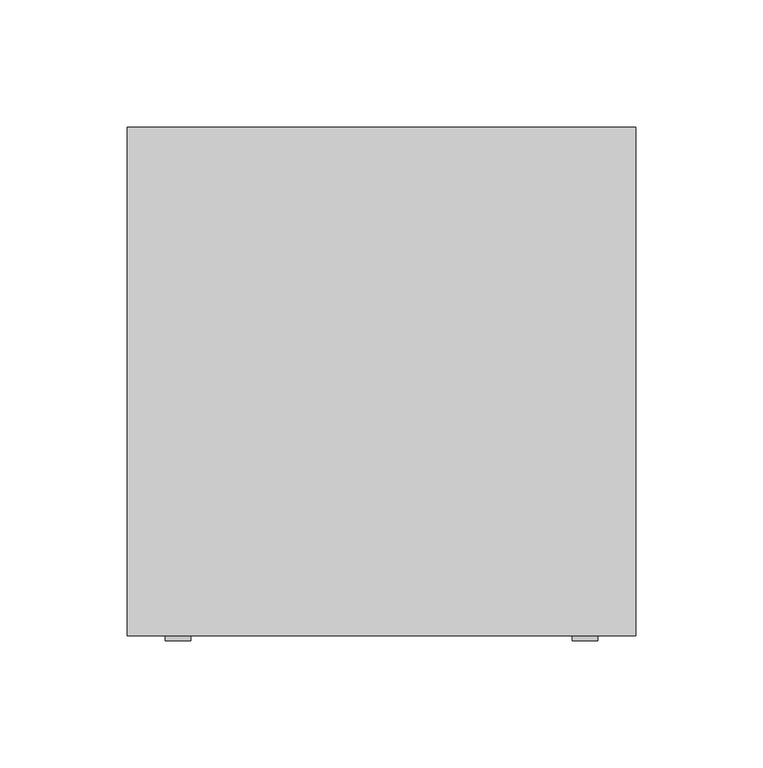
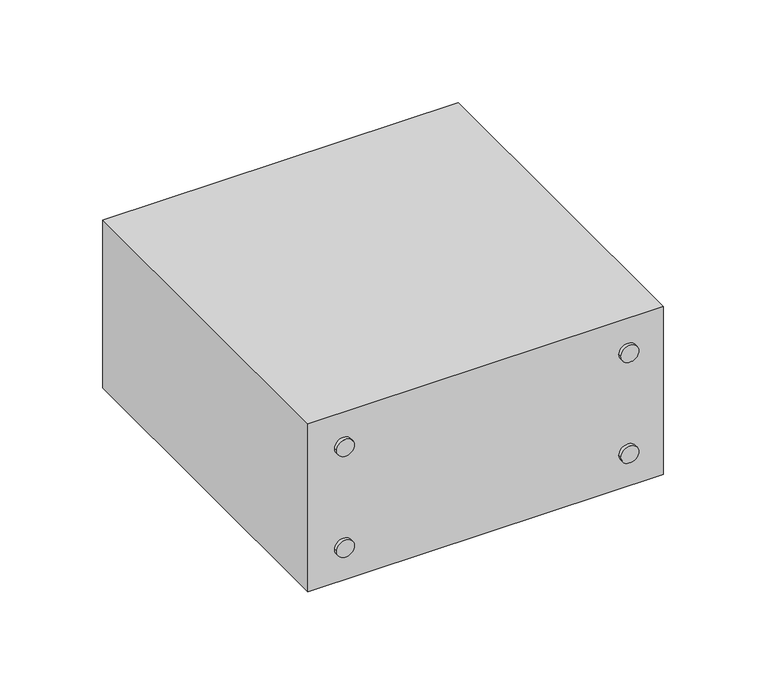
"""IFC4 building model written with IfcOpenShell, lengths in millimetres: proxy geometry, 20206_プルボックス_強電用 : 2動力設備."""

from ifc_helpers import new_model, si_unit, point, frame, frame_2d, origin, place, context, project, spatial, polyline, circle_curve, trimmed, segment, composite_curve, outline, extrude, source, transform, mapped, element, save


def electrical_fixtures_2e1bd67b(model_context):
    return source(origin(), model_context, "Body", "SweptSolid", [
        extrude(outline(composite_curve([segment(trimmed(circle_curve(frame_2d((-30.0, -80.0)), 5.0), [point((-30.0, -85.0))], [point((-30.0, -75.0))], False, "CARTESIAN"), True, "CONTINUOUS"), segment(trimmed(circle_curve(frame_2d((-30.0, -80.0)), 5.0), [point((-30.0, -75.0))], [point((-30.0, -85.0))], False, "CARTESIAN"), True, "CONTINUOUS")], self_intersect=False)), frame((0.0, -101.0, 0.0), z_axis=(0.0, 1.0, 0.0), x_axis=(0.0, 0.0, 1.0)), (0.0, 0.0, 1.0), 2.0),
        extrude(outline(composite_curve([segment(trimmed(circle_curve(frame_2d((30.0, 80.0)), 5.0), [point((30.0, 75.0))], [point((30.0, 85.0))], False, "CARTESIAN"), True, "CONTINUOUS"), segment(trimmed(circle_curve(frame_2d((30.0, 80.0)), 5.0), [point((30.0, 85.0))], [point((30.0, 75.0))], False, "CARTESIAN"), True, "CONTINUOUS")], self_intersect=False)), frame((0.0, -101.0, 0.0), z_axis=(0.0, 1.0, 0.0), x_axis=(0.0, 0.0, 1.0)), (0.0, 0.0, 1.0), 2.0),
        extrude(outline(composite_curve([segment(trimmed(circle_curve(frame_2d((30.0, -80.0)), 5.0), [point((30.0, -85.0))], [point((30.0, -75.0))], False, "CARTESIAN"), True, "CONTINUOUS"), segment(trimmed(circle_curve(frame_2d((30.0, -80.0)), 5.0), [point((30.0, -75.0))], [point((30.0, -85.0))], False, "CARTESIAN"), True, "CONTINUOUS")], self_intersect=False)), frame((0.0, -101.0, 0.0), z_axis=(0.0, 1.0, 0.0), x_axis=(0.0, 0.0, 1.0)), (0.0, 0.0, 1.0), 2.0),
        extrude(outline(composite_curve([segment(trimmed(circle_curve(frame_2d((-30.0, 80.0)), 5.0), [point((-30.0, 75.0))], [point((-30.0, 85.0))], False, "CARTESIAN"), True, "CONTINUOUS"), segment(trimmed(circle_curve(frame_2d((-30.0, 80.0)), 5.0), [point((-30.0, 85.0))], [point((-30.0, 75.0))], False, "CARTESIAN"), True, "CONTINUOUS")], self_intersect=False)), frame((0.0, -101.0, 0.0), z_axis=(0.0, 1.0, 0.0), x_axis=(0.0, 0.0, 1.0)), (0.0, 0.0, 1.0), 2.0),
        extrude(outline(polyline([(100.0, -99.0), (-100.0, -99.0), (-100.0, 101.0), (100.0, 101.0), (100.0, -99.0)])), frame((0.0, 0.0, -50.0), z_axis=(0.0, 0.0, 1.0), x_axis=(1.0, 0.0, 0.0)), (0.0, 0.0, 1.0), 100.0),
    ])


if __name__ == "__main__":
    model = new_model("IFC4")
    model_context = context("Model", 3, world=origin())
    ifc_project = project(units=[si_unit("LENGTHUNIT", "METRE", prefix="MILLI")], contexts=[model_context])
    site = spatial("IfcSite", under=ifc_project)
    building = spatial("IfcBuilding", under=site)
    placement = place(None, origin())
    electrical_fixtures_shape = electrical_fixtures_2e1bd67b(model_context)
    element("IfcBuildingElementProxy", 1, Name="20206_プルボックス_強電用 : 2動力設備", ObjectType="20206_プルボックス_強電用 : 2動力設備", at=placement, inside=building, context=model_context, shape_type="MappedRepresentation", body=[
        mapped(electrical_fixtures_shape, transform((0.0, 0.0, 0.0), x_axis=(1.0, 0.0, 0.0), y_axis=(0.0, 1.0, 0.0), z_axis=(0.0, 0.0, 1.0))),
    ])
    save(model, "model.ifc")
